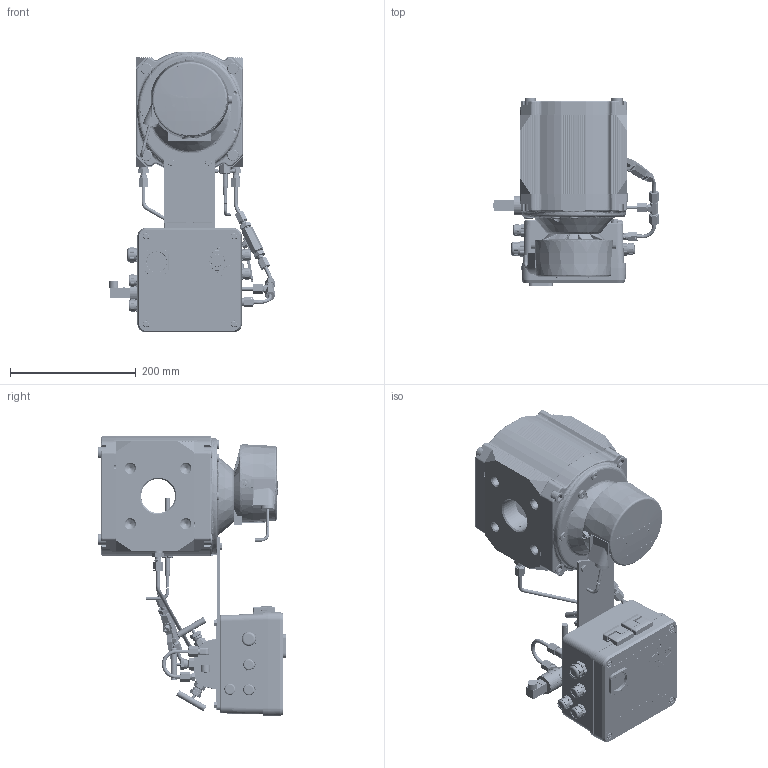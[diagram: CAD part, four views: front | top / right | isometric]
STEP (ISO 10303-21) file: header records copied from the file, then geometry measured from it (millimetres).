
FILE_DESCRIPTION(('STEP AP242'), '1');
FILE_NAME('ÑÃ-ÝÊÐ-Ð-100 ÐÂÃ-À ñ ÏÏÄ ëåâûé', '', ('UNSPECIFIED'), ('UNSPECIFIED'), 'C3D Converter', 'C3D Toolkit', '');
FILE_SCHEMA(('AP242_MANAGED_MODEL_BASED_3D_ENGINEERING_MIM_LF { 1 0 10303 442 1 1 4 }'));
Length unit declared in the file: millimetre
Bounding box: 264.58 x 299 x 446.5 mm (x, y, z)
Volume: 4463150.4 mm3; surface area: 1059273.3 mm2
Topology: 116 solids, 116 shells, 6002 faces, 15319 edges, 9858 vertices
Faces by surface type: plane 1862, cylinder 1652, extrusion 1105, cone 773, bspline 343, torus 233, sphere 34
Full cylindrical faces by diameter (mm): 1.95 x3, 2 x41, 2.459 x4, 2.5 x12, 2.791 x2, 3 x2, 3.1 x1, 3.2 x14, 3.242 x7, 3.3 x4, 3.45 x3, 3.459 x2, 4 x29, 4.134 x1, 4.2 x6, 4.3 x2, 4.5 x1, 4.917 x15, 5 x28, 5.5 x4, 5.8 x4, 6 x69, 6.2 x12, 6.6 x4, 7 x11, 8 x6, 8.1 x1, 8.5 x1, 8.77 x2, 9 x7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
Entity records: 350595 total; most frequent: CARTESIAN_POINT 168862, ORIENTED_EDGE 28294, DIRECTION 23219, EDGE_CURVE 14147, VERTEX_POINT 9793, AXIS2_PLACEMENT_3D 8261, EDGE_LOOP 7710, VECTOR 6697
